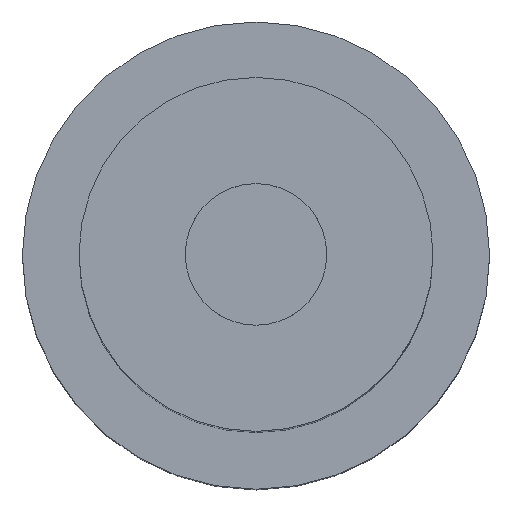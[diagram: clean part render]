
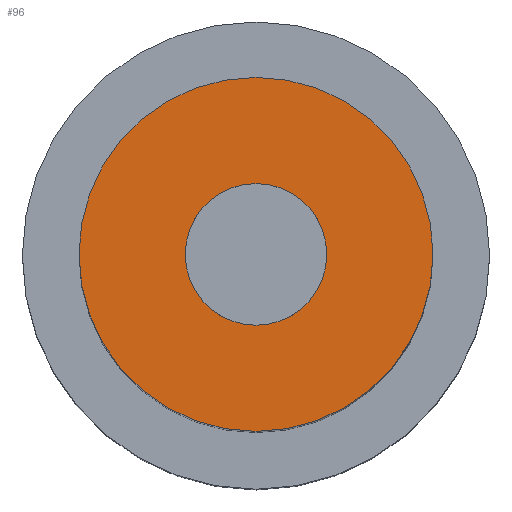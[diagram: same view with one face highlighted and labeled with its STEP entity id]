
A CAD part, top view. The second image highlights one B-rep face of the part: STEP entity #96.
In plain terms, the highlighted planar face has unit normal (0, 0, 1) as drawn and (-1, 0, 0) by its records, which use the part's own axes.
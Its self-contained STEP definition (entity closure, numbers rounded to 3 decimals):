
#1 = VERTEX_POINT ( 'NONE', #155 ) ;
#14 = EDGE_CURVE ( 'NONE', #1, #15, #171, .T. ) ;
#15 = VERTEX_POINT ( 'NONE', #239 ) ;
#26 = EDGE_CURVE ( 'NONE', #31, #92, #266, .T. ) ;
#31 = VERTEX_POINT ( 'NONE', #257 ) ;
#58 = EDGE_CURVE ( 'NONE', #92, #31, #285, .T. ) ;
#92 = VERTEX_POINT ( 'NONE', #202 ) ;
#93 = ORIENTED_EDGE ( 'NONE', *, *, #26, .F. ) ;
#94 = ORIENTED_EDGE ( 'NONE', *, *, #107, .F. ) ;
#95 = ORIENTED_EDGE ( 'NONE', *, *, #14, .F. ) ;
#96 = ADVANCED_FACE ( 'NONE', ( #201, #200 ), #199, .F. ) ;
#98 = EDGE_LOOP ( 'NONE', ( #93, #137 ) ) ;
#107 = EDGE_CURVE ( 'NONE', #15, #1, #364, .T. ) ;
#110 = EDGE_LOOP ( 'NONE', ( #94, #95 ) ) ;
#137 = ORIENTED_EDGE ( 'NONE', *, *, #58, .F. ) ;
#155 = CARTESIAN_POINT ( 'NONE',  ( 0., 0., -1.25 ) ) ;
#169 = DIRECTION ( 'NONE',  ( 0., 0., 1. ) ) ;
#170 = DIRECTION ( 'NONE',  ( -1., 0., 0. ) ) ;
#171 = CIRCLE ( 'NONE', #243, 1.25 ) ;
#195 = DIRECTION ( 'NONE',  ( 0., 0., -1. ) ) ;
#196 = DIRECTION ( 'NONE',  ( 1., 0., 0. ) ) ;
#197 = CARTESIAN_POINT ( 'NONE',  ( 0., 0., 0. ) ) ;
#198 = AXIS2_PLACEMENT_3D ( 'NONE', #197, #196, #195 ) ;
#199 = PLANE ( 'NONE',  #198 ) ;
#200 = FACE_OUTER_BOUND ( 'NONE', #110, .T. ) ;
#201 = FACE_BOUND ( 'NONE', #98, .T. ) ;
#202 = CARTESIAN_POINT ( 'NONE',  ( 0., 0., -0.5 ) ) ;
#239 = CARTESIAN_POINT ( 'NONE',  ( 0., 0., 1.25 ) ) ;
#240 = DIRECTION ( 'NONE',  ( 0., 0., -1. ) ) ;
#241 = DIRECTION ( 'NONE',  ( 1., 0., 0. ) ) ;
#242 = CARTESIAN_POINT ( 'NONE',  ( 0., 0., 0. ) ) ;
#243 = AXIS2_PLACEMENT_3D ( 'NONE', #242, #241, #240 ) ;
#257 = CARTESIAN_POINT ( 'NONE',  ( 0., 0., 0.5 ) ) ;
#263 = DIRECTION ( 'NONE',  ( 0., 0., 1. ) ) ;
#264 = DIRECTION ( 'NONE',  ( -1., 0., 0. ) ) ;
#265 = AXIS2_PLACEMENT_3D ( 'NONE', #271, #264, #263 ) ;
#266 = CIRCLE ( 'NONE', #265, 0.5 ) ;
#271 = CARTESIAN_POINT ( 'NONE',  ( 0., 0., 0. ) ) ;
#283 = CARTESIAN_POINT ( 'NONE',  ( 0., 0., 0. ) ) ;
#284 = AXIS2_PLACEMENT_3D ( 'NONE', #283, #170, #169 ) ;
#285 = CIRCLE ( 'NONE', #284, 0.5 ) ;
#360 = DIRECTION ( 'NONE',  ( 0., 0., -1. ) ) ;
#361 = DIRECTION ( 'NONE',  ( 1., 0., 0. ) ) ;
#362 = CARTESIAN_POINT ( 'NONE',  ( 0., 0., 0. ) ) ;
#363 = AXIS2_PLACEMENT_3D ( 'NONE', #362, #361, #360 ) ;
#364 = CIRCLE ( 'NONE', #363, 1.25 ) ;
